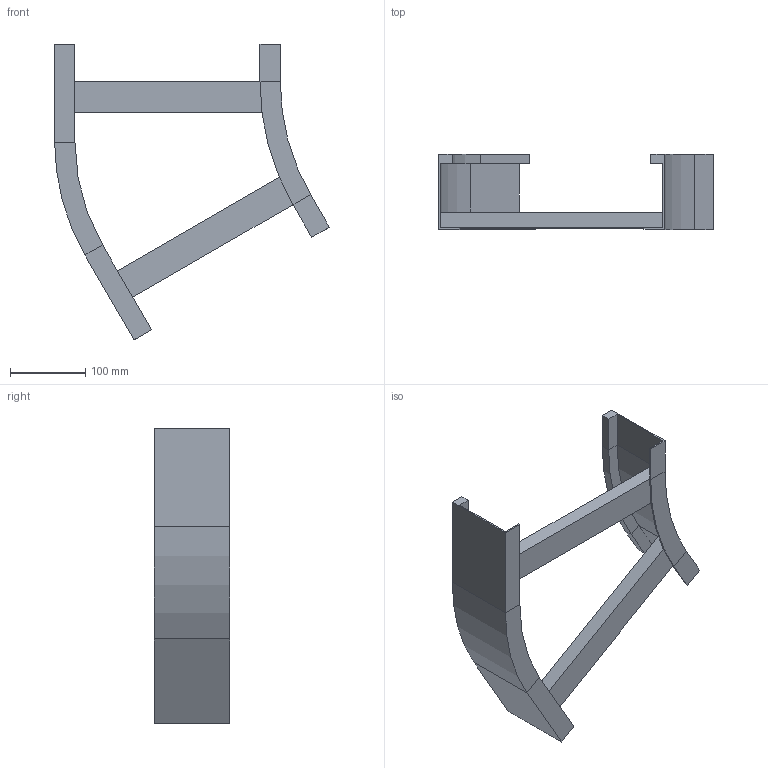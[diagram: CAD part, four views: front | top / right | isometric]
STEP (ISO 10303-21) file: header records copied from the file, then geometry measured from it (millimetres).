
FILE_DESCRIPTION (( 'STEP AP214' ), '1' );
FILE_NAME ('B2_12B3D300.step', '2025-02-21T15:07:44', ( '' ), ( '' ), 'SwSTEP 2.0', 'SolidWorks 2023', '' );
FILE_SCHEMA (( 'AUTOMOTIVE_DESIGN' ));
Length unit declared in the file: millimetre
Products named in the file (4): B2_LONGH.INTERNO 30°_H100_R300; TRAVERSINO_300; B2_12B3D300; B2_LONGH.ESTERNO 30°_H100_R300+300
Assembly tree (4 placements, depth 2):
  B2_12B3D300
    B2_LONGH.INTERNO 30°_H100_R300
    B2_LONGH.ESTERNO 30°_H100_R300+300
    TRAVERSINO_300  x2
Bounding box: 365.19 x 100 x 393.3 mm (x, y, z)
Volume: 777838.5 mm3; surface area: 269669.6 mm2
Topology: 4 solids, 4 shells, 64 faces, 136 edges, 80 vertices
Faces by surface type: plane 56, cylinder 8
Entity records: 1637 total; most frequent: DIRECTION 270, CARTESIAN_POINT 261, ORIENTED_EDGE 248, EDGE_CURVE 124, VECTOR 108, LINE 108, AXIS2_PLACEMENT_3D 81, VERTEX_POINT 72
